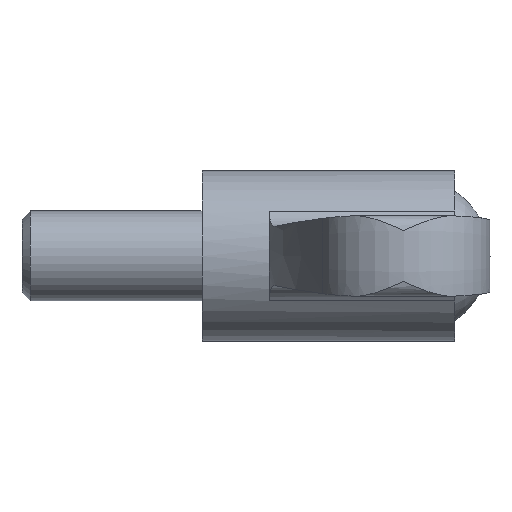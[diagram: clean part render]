
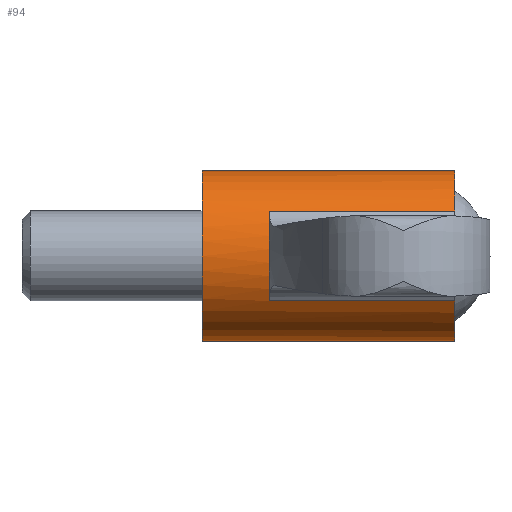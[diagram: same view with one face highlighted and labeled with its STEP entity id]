
A CAD part, front view. The second image highlights one B-rep face of the part: STEP entity #94.
In plain terms, the highlighted cylindrical face has radius 9.5 mm (diameter 19 mm), a full revolution.
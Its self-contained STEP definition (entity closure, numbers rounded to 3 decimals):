
#94 = ADVANCED_FACE( '', ( #148, #149 ), #150, .T. );
#148 = FACE_OUTER_BOUND( '', #294, .T. );
#149 = FACE_OUTER_BOUND( '', #295, .T. );
#150 = CYLINDRICAL_SURFACE( '', #296, 9.5 );
#294 = EDGE_LOOP( '', ( #456, #457, #458, #459, #460, #461, #462, #463 ) );
#295 = EDGE_LOOP( '', ( #464 ) );
#296 = AXIS2_PLACEMENT_3D( '', #465, #466, #467 );
#456 = ORIENTED_EDGE( '', *, *, #559, .F. );
#457 = ORIENTED_EDGE( '', *, *, #544, .F. );
#458 = ORIENTED_EDGE( '', *, *, #585, .F. );
#459 = ORIENTED_EDGE( '', *, *, #594, .T. );
#460 = ORIENTED_EDGE( '', *, *, #569, .F. );
#461 = ORIENTED_EDGE( '', *, *, #567, .F. );
#462 = ORIENTED_EDGE( '', *, *, #583, .F. );
#463 = ORIENTED_EDGE( '', *, *, #532, .T. );
#464 = ORIENTED_EDGE( '', *, *, #593, .T. );
#465 = CARTESIAN_POINT( '', ( 32., 0., 0. ) );
#466 = DIRECTION( '', ( -1., 0., 0. ) );
#467 = DIRECTION( '', ( 0., 0., -1. ) );
#532 = EDGE_CURVE( '', #600, #601, #602, .T. );
#544 = EDGE_CURVE( '', #621, #623, #624, .T. );
#559 = EDGE_CURVE( '', #623, #601, #652, .T. );
#567 = EDGE_CURVE( '', #663, #665, #666, .T. );
#569 = EDGE_CURVE( '', #665, #668, #669, .T. );
#583 = EDGE_CURVE( '', #600, #663, #690, .T. );
#585 = EDGE_CURVE( '', #691, #621, #693, .T. );
#593 = EDGE_CURVE( '', #704, #704, #705, .T. );
#594 = EDGE_CURVE( '', #691, #668, #706, .T. );
#600 = VERTEX_POINT( '', #716 );
#601 = VERTEX_POINT( '', #717 );
#602 = LINE( '', #718, #719 );
#621 = VERTEX_POINT( '', #768 );
#623 = VERTEX_POINT( '', #775 );
#624 = LINE( '', #776, #777 );
#652 = CIRCLE( '', #939, 9.5 );
#663 = VERTEX_POINT( '', #961 );
#665 = VERTEX_POINT( '', #968 );
#666 = LINE( '', #969, #970 );
#668 = VERTEX_POINT( '', #983 );
#669 = CIRCLE( '', #984, 9.5 );
#690 = CIRCLE( '', #1089, 9.5 );
#691 = VERTEX_POINT( '', #1090 );
#693 = CIRCLE( '', #1097, 9.5 );
#704 = VERTEX_POINT( '', #1162 );
#705 = CIRCLE( '', #1163, 9.5 );
#706 = LINE( '', #1164, #1165 );
#716 = CARTESIAN_POINT( '', ( 28.062, 8.079, 4.997 ) );
#717 = CARTESIAN_POINT( '', ( 7.499, 8.079, 4.997 ) );
#718 = CARTESIAN_POINT( '', ( 32., 8.079, 4.997 ) );
#719 = VECTOR( '', #1176, 1000. );
#768 = CARTESIAN_POINT( '', ( 28.062, 8.079, -4.997 ) );
#775 = CARTESIAN_POINT( '', ( 7.499, 8.079, -4.997 ) );
#776 = CARTESIAN_POINT( '', ( 32., 8.079, -4.997 ) );
#777 = VECTOR( '', #1191, 1000. );
#939 = AXIS2_PLACEMENT_3D( '', #1196, #1197, #1198 );
#961 = CARTESIAN_POINT( '', ( 28.062, -8.079, 4.997 ) );
#968 = CARTESIAN_POINT( '', ( 7.499, -8.079, 4.997 ) );
#969 = CARTESIAN_POINT( '', ( 32., -8.079, 4.997 ) );
#970 = VECTOR( '', #1206, 1000. );
#983 = CARTESIAN_POINT( '', ( 7.499, -8.079, -4.997 ) );
#984 = AXIS2_PLACEMENT_3D( '', #1207, #1208, #1209 );
#1089 = AXIS2_PLACEMENT_3D( '', #1225, #1226, #1227 );
#1090 = CARTESIAN_POINT( '', ( 28.062, -8.079, -4.997 ) );
#1097 = AXIS2_PLACEMENT_3D( '', #1228, #1229, #1230 );
#1162 = CARTESIAN_POINT( '', ( 0., 0., -9.5 ) );
#1163 = AXIS2_PLACEMENT_3D( '', #1240, #1241, #1242 );
#1164 = CARTESIAN_POINT( '', ( 32., -8.079, -4.997 ) );
#1165 = VECTOR( '', #1243, 1000. );
#1176 = DIRECTION( '', ( -1., 0., 0. ) );
#1191 = DIRECTION( '', ( -1., 0., 0. ) );
#1196 = CARTESIAN_POINT( '', ( 7.499, 0., 0. ) );
#1197 = DIRECTION( '', ( 1., 0., 0. ) );
#1198 = DIRECTION( '', ( 0., 0., -1. ) );
#1206 = DIRECTION( '', ( -1., 0., 0. ) );
#1207 = CARTESIAN_POINT( '', ( 7.499, 0., 0. ) );
#1208 = DIRECTION( '', ( 1., 0., 0. ) );
#1209 = DIRECTION( '', ( 0., 0., -1. ) );
#1225 = CARTESIAN_POINT( '', ( 28.062, 0., 0. ) );
#1226 = DIRECTION( '', ( 1., 0., 0. ) );
#1227 = DIRECTION( '', ( 0., 0., -1. ) );
#1228 = CARTESIAN_POINT( '', ( 28.062, 0., 0. ) );
#1229 = DIRECTION( '', ( 1., 0., 0. ) );
#1230 = DIRECTION( '', ( 0., 0., -1. ) );
#1240 = CARTESIAN_POINT( '', ( 0., 0., 0. ) );
#1241 = DIRECTION( '', ( 1., 0., 0. ) );
#1242 = DIRECTION( '', ( 0., 0., -1. ) );
#1243 = DIRECTION( '', ( -1., 0., 0. ) );
